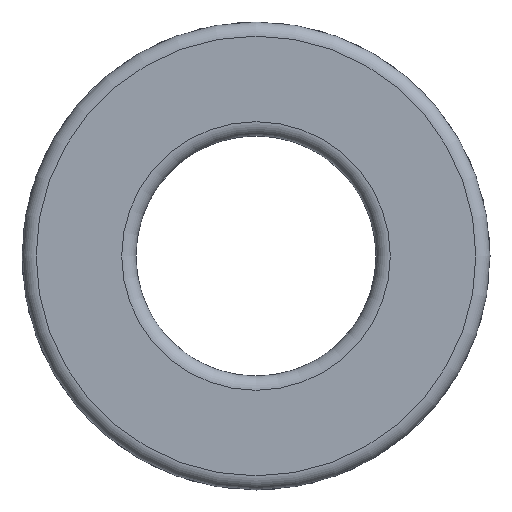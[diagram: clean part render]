
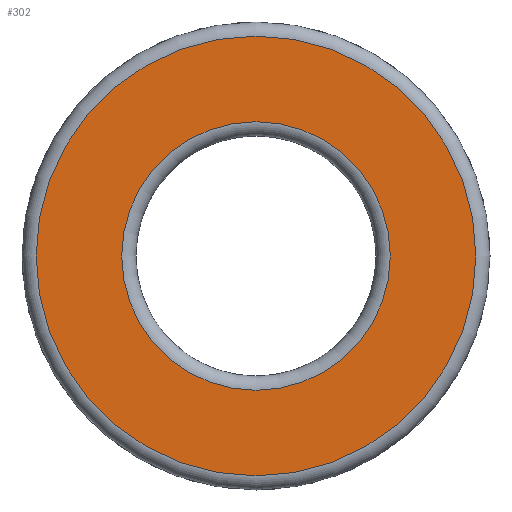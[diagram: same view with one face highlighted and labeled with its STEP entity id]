
A CAD part, front view. The second image highlights one B-rep face of the part: STEP entity #302.
In plain terms, the highlighted planar face has unit normal (0, -1, 0).
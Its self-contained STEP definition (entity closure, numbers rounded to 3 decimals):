
#44=FACE_BOUND('',#76,.T.);
#55=FACE_OUTER_BOUND('',#75,.T.);
#75=EDGE_LOOP('',(#220,#221));
#76=EDGE_LOOP('',(#222,#223));
#101=CIRCLE('',#350,15.55);
#102=CIRCLE('',#351,15.55);
#105=CIRCLE('',#356,9.5);
#106=CIRCLE('',#357,9.5);
#132=VERTEX_POINT('',#523);
#133=VERTEX_POINT('',#525);
#136=VERTEX_POINT('',#535);
#137=VERTEX_POINT('',#536);
#164=EDGE_CURVE('',#132,#133,#101,.T.);
#165=EDGE_CURVE('',#133,#132,#102,.T.);
#169=EDGE_CURVE('',#136,#137,#105,.T.);
#170=EDGE_CURVE('',#137,#136,#106,.T.);
#220=ORIENTED_EDGE('',*,*,#165,.F.);
#221=ORIENTED_EDGE('',*,*,#164,.F.);
#222=ORIENTED_EDGE('',*,*,#169,.F.);
#223=ORIENTED_EDGE('',*,*,#170,.F.);
#272=PLANE('',#355);
#302=ADVANCED_FACE('',(#55,#44),#272,.T.);
#350=AXIS2_PLACEMENT_3D('',#526,#422,#423);
#351=AXIS2_PLACEMENT_3D('',#527,#424,#425);
#355=AXIS2_PLACEMENT_3D('',#534,#433,#434);
#356=AXIS2_PLACEMENT_3D('',#537,#435,#436);
#357=AXIS2_PLACEMENT_3D('',#538,#437,#438);
#422=DIRECTION('center_axis',(0.,1.,0.));
#423=DIRECTION('ref_axis',(0.,0.,-1.));
#424=DIRECTION('center_axis',(0.,1.,0.));
#425=DIRECTION('ref_axis',(0.,0.,-1.));
#433=DIRECTION('center_axis',(0.,-1.,0.));
#434=DIRECTION('ref_axis',(0.,0.,-1.));
#435=DIRECTION('center_axis',(0.,-1.,0.));
#436=DIRECTION('ref_axis',(0.,0.,-1.));
#437=DIRECTION('center_axis',(0.,-1.,0.));
#438=DIRECTION('ref_axis',(0.,0.,-1.));
#523=CARTESIAN_POINT('',(8.5,0.,-15.55));
#525=CARTESIAN_POINT('',(8.5,0.,15.55));
#526=CARTESIAN_POINT('Origin',(8.5,0.,0.));
#527=CARTESIAN_POINT('Origin',(8.5,0.,0.));
#534=CARTESIAN_POINT('Origin',(8.5,0.,-12.525));
#535=CARTESIAN_POINT('',(8.5,0.,9.5));
#536=CARTESIAN_POINT('',(8.5,0.,-9.5));
#537=CARTESIAN_POINT('Origin',(8.5,0.,0.));
#538=CARTESIAN_POINT('Origin',(8.5,0.,0.));
